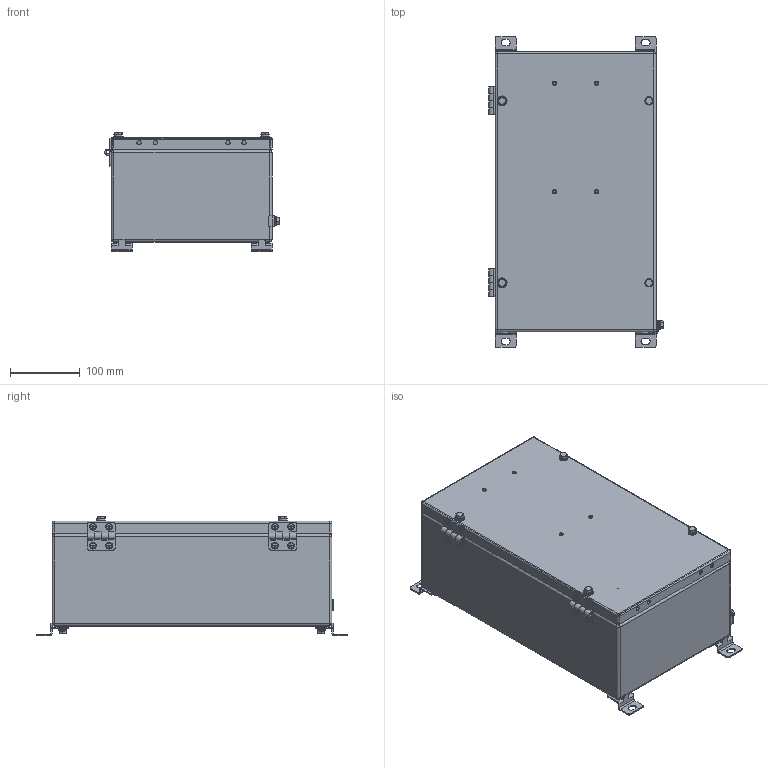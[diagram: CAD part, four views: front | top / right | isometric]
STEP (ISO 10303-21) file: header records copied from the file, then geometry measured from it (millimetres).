
FILE_DESCRIPTION((''),'2;1');
FILE_NAME('\\192.168.5.25\cortem_klient\INVENTOR БАЗА МОДЕЛЕЙ\Актуальная база моделей для отдела продаж\КСРВ-М\КСРВ-М402315_М3.stp','2019-04-09T14:44:15',('A.S.Kozlov'),(''),'Autodesk Inventor 2012','Autodesk Inventor 2012','');
FILE_SCHEMA(('CONFIG_CONTROL_DESIGN'));
Length unit declared in the file: millimetre
Products named in the file (1): КСРВ-(параметрическая модель)_Внешний контур_1
Bounding box: 249.19 x 444 x 171.2 mm (x, y, z)
Surface area: 560355.4 mm2 (no closed solid volume)
Topology: 0 solids, 78 shells, 330 faces, 1290 edges, 962 vertices
Faces by surface type: plane 181, cylinder 135, sphere 12, cone 2
Full cylindrical faces by diameter (mm): 5.9 x4, 6.1 x4, 9 x1, 10 x2, 12 x5, 12.7 x4, 14 x2
Entity records: 13985 total; most frequent: CARTESIAN_POINT 2702, DIRECTION 2313, ORIENTED_EDGE 1775, EDGE_CURVE 1252, VERTEX_POINT 951, AXIS2_PLACEMENT_3D 814, VECTOR 685, LINE 685
